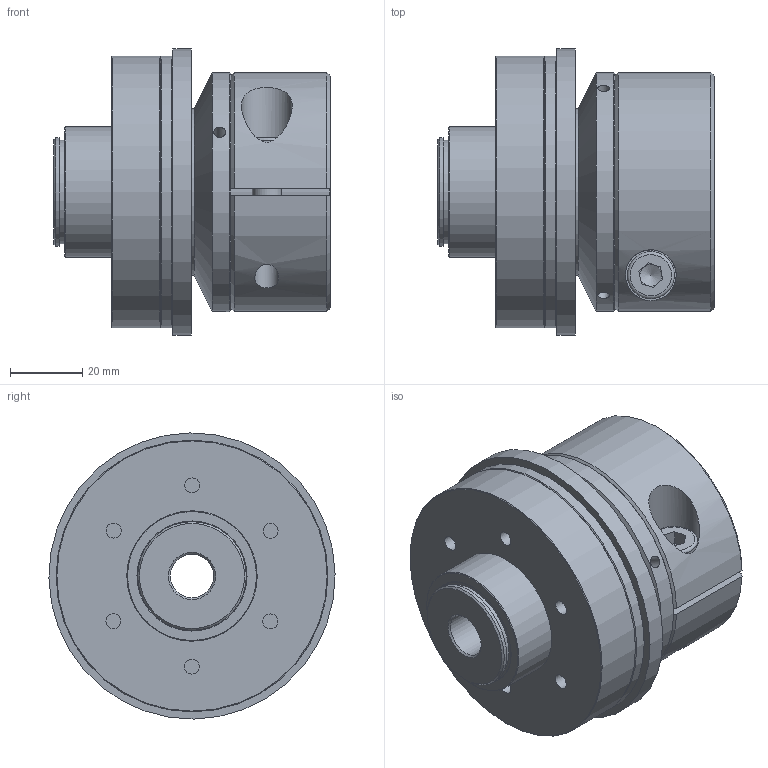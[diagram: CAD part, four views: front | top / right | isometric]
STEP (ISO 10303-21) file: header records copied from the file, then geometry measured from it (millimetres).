
FILE_DESCRIPTION( ( 'Unknown' ), '1' );
FILE_NAME( 'C:/Users/TWalzel/Documents/CAD-Daten/KBK-CK/60/KBK CK-60.stp', 'Unknown', ( 'Unknown' ), ( 'Unknown' ), 'PSStep 16.0.42', 'Unknown', ' ' );
FILE_SCHEMA( ( 'AUTOMOTIVE_DESIGN { 1 0 10303 214 1 1 1 1 }' ) );
Length unit declared in the file: millimetre
Products named in the file (10): Stellring 60; Klemmnabe 60; Druckring 60; Assem1; Flansch-Gleitlager CK-60; Grundkörper CK-60_1; Socket Head Cap Screw_DIN_DIN 912 M8 x 25 --- 25N
Assembly tree (9 placements, depth 3):
  Assem1
    Flansch-Gleitlager CK-60
    Grundkörper CK-60_1
    Socket Head Cap Screw_DIN_DIN 912 M8 x 25 --- 25N
    Stellring 60
      Stellring 60
    Druckring 60
      Druckring 60
    Klemmnabe 60
      Klemmnabe 60
Bounding box: 76.3 x 78.99 x 78.99 mm (x, y, z)
Volume: 222856.8 mm3; surface area: 67267.1 mm2
Topology: 6 solids, 6 shells, 113 faces, 231 edges, 146 vertices
Faces by surface type: plane 44, cylinder 42, cone 23, torus 4
Full cylindrical faces by diameter (mm): 3.242 x3, 4 x3, 4.134 x12, 6.647 x1, 8 x1, 8.5 x1, 12 x1, 13 x1, 14 x1, 28.5 x1, 30 x3, 32 x1, 36 x1, 46 x2, 46.5 x1, 61.3 x1, 66 x1, 75 x2, 79 x1
Entity records: 4146 total; most frequent: CARTESIAN_POINT 879, DIRECTION 504, ORIENTED_EDGE 320, AXIS2_PLACEMENT_3D 226, EDGE_LOOP 206, EDGE_CURVE 160, FACE_OUTER_BOUND 155, VERTEX_POINT 135
